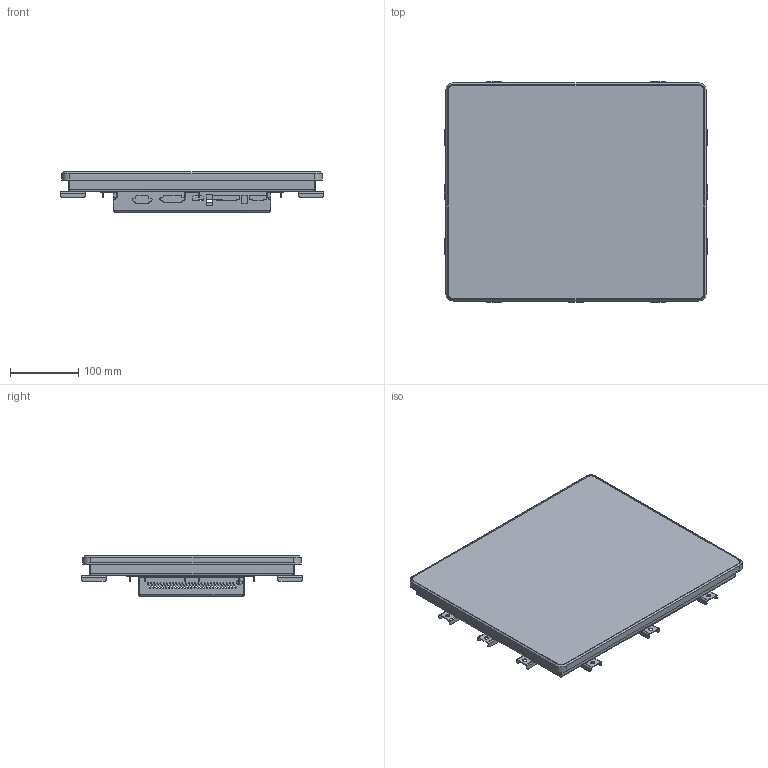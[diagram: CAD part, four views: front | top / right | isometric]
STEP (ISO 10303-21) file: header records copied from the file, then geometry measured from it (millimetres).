
FILE_DESCRIPTION(('STEP AP242'), '1');
FILE_NAME('Ñáîðêà_SDA17', '', ('UNSPECIFIED'), ('UNSPECIFIED'), 'C3D Converter', 'C3D Toolkit', '');
FILE_SCHEMA(('AP242_MANAGED_MODEL_BASED_3D_ENGINEERING_MIM_LF { 1 0 10303 442 1 1 4 }'));
Length unit declared in the file: millimetre
Bounding box: 385.66 x 323.6 x 59 mm (x, y, z)
Volume: 1630396.6 mm3; surface area: 896503.1 mm2
Topology: 2 solids, 2 shells, 3534 faces, 9656 edges, 6308 vertices
Faces by surface type: plane 1779, extrusion 894, cylinder 801, bspline 40, cone 20
Full cylindrical faces by diameter (mm): 1.6 x11, 2 x10, 2.4 x4, 2.5 x21, 3.5 x16, 4 x6, 4.2 x11, 4.22 x12, 4.35 x11, 6 x11, 6.1 x4
Entity records: 143697 total; most frequent: CARTESIAN_POINT 27604, ORIENTED_EDGE 19078, DIRECTION 15349, EDGE_CURVE 9539, VECTOR 6983, VERTEX_POINT 6308, LINE 6089, EDGE_LOOP 4415
